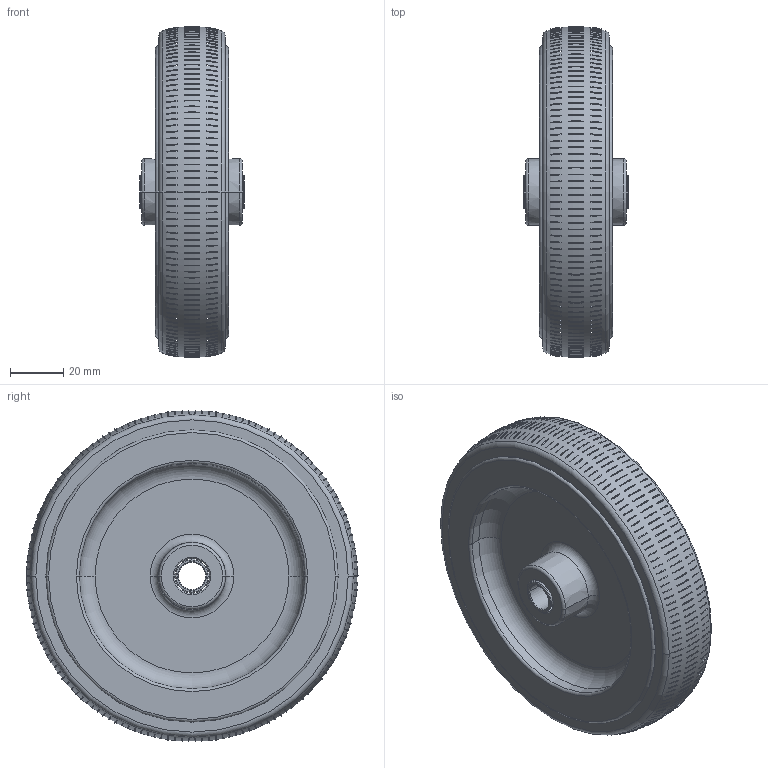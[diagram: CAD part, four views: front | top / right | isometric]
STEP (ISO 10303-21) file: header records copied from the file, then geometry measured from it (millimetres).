
FILE_DESCRIPTION((''),'2;1');
FILE_NAME('PRT0003','2025-11-07T08:26:03',('Administrator'),(''),'CREO PARAMETRIC BY PTC INC, 2022124','CREO PARAMETRIC BY PTC INC, 2022124','');
FILE_SCHEMA(('AUTOMOTIVE_DESIGN { 1 0 10303 214 1 1 1 1 }'));
Products named in the file (1): PRT0003
Bounding box: 39.5 x 124.98 x 124.46 mm (x, y, z)
Surface area: 39779.6 mm2 (no closed solid volume)
Topology: 0 solids, 102 shells, 714 faces, 5804 edges, 5188 vertices
Faces by surface type: plane 388, bspline 280, torus 32, cone 8, cylinder 6
Entity records: 66587 total; most frequent: CARTESIAN_POINT 23448, DIRECTION 7253, ORIENTED_EDGE 6480, EDGE_CURVE 5804, VERTEX_POINT 5188, AXIS2_PLACEMENT_3D 3240, CIRCLE 2796, B_SPLINE_CURVE_WITH_KNOTS 2238
